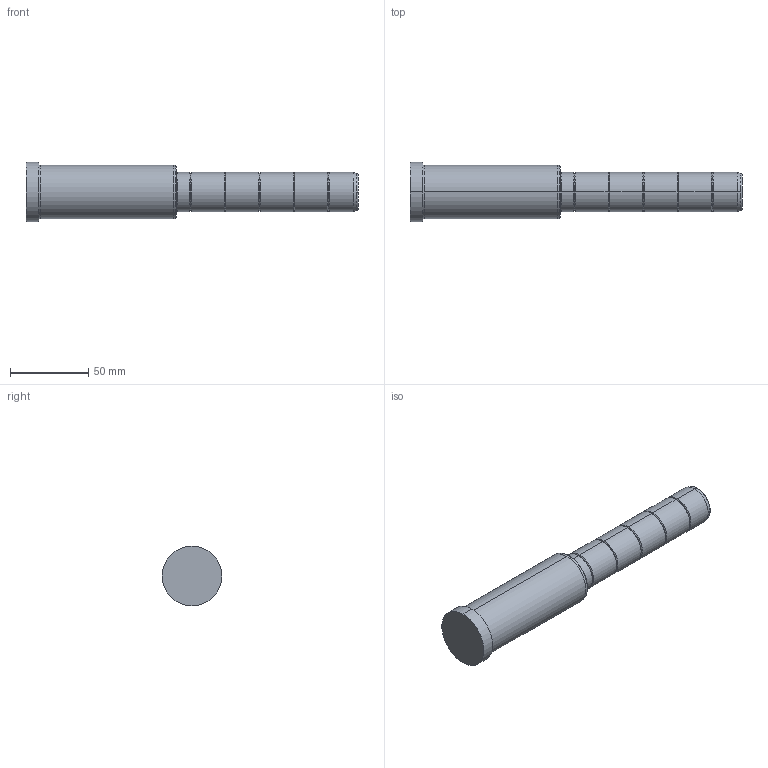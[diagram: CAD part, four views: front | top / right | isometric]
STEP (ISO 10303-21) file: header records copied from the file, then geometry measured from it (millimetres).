
FILE_DESCRIPTION (( 'STEP AP214' ), '1' );
FILE_NAME ('D02_25x96x116.step', '2011-12-25T21:42:12', ( 'Dell' ), ( '' ), 'SwSTEP 2.0', 'SolidWorks 2010', '' );
FILE_SCHEMA (( 'AUTOMOTIVE_DESIGN' ));
Length unit declared in the file: millimetre
Products named in the file (1): D02_25x96x116
Bounding box: 212 x 38 x 38 mm (x, y, z)
Volume: 145747.1 mm3; surface area: 21808.8 mm2
Topology: 1 solids, 1 shells, 54 faces, 130 edges, 82 vertices
Faces by surface type: bspline 24, cylinder 20, plane 6, cone 4
Entity records: 1926 total; most frequent: CARTESIAN_POINT 699, ORIENTED_EDGE 260, DIRECTION 250, EDGE_CURVE 130, AXIS2_PLACEMENT_3D 113, CIRCLE 82, VERTEX_POINT 82, EDGE_LOOP 58
